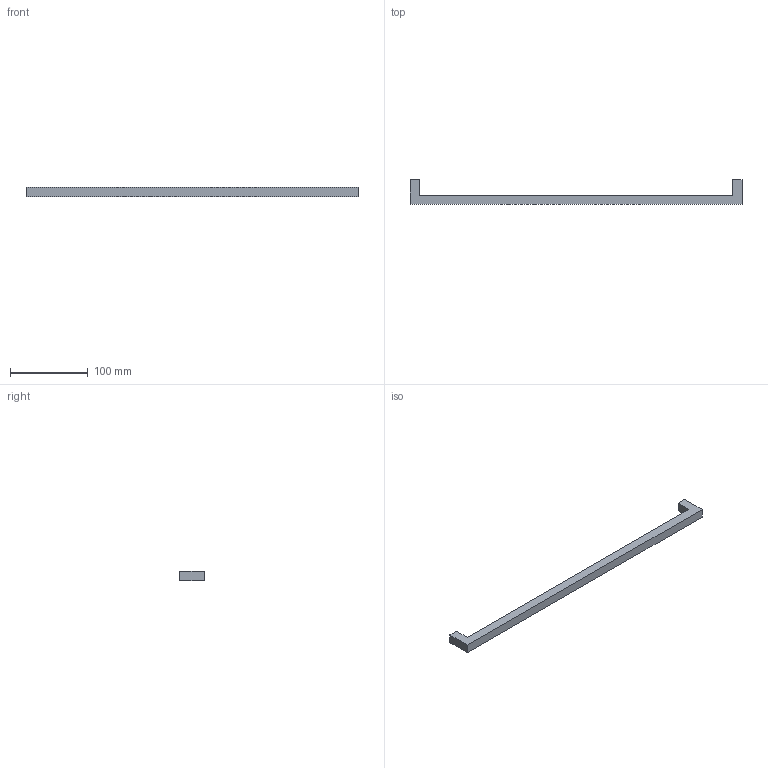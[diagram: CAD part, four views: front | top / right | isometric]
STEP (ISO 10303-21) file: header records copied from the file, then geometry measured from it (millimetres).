
FILE_DESCRIPTION( ( 'STEP AP214' ), '1' );
FILE_NAME( 'C:/Users/kulkarni/Desktop/Apurva/2015/Prodecor_2016/Cadfiles/same as files/Anzio/9207350.stp', ' ', ( ' ' ), ( ' ' ), 'PSStep 15.0.47', 'PARTsolutions', ' ' );
FILE_SCHEMA( ( 'AUTOMOTIVE_DESIGN { 1 0 10303 214 1 1 1 1 }' ) );
Length unit declared in the file: millimetre
Products named in the file (1): _9207350
Bounding box: 428 x 32 x 12 mm (x, y, z)
Volume: 67140.7 mm3; surface area: 23003.3 mm2
Topology: 1 solids, 1 shells, 14 faces, 30 edges, 20 vertices
Faces by surface type: plane 12, cylinder 2
Full cylindrical faces by diameter (mm): 4 x2
Entity records: 496 total; most frequent: CARTESIAN_POINT 63, DIRECTION 62, ORIENTED_EDGE 56, EDGE_CURVE 28, LINE 24, VECTOR 24, VERTEX_POINT 20, AXIS2_PLACEMENT_3D 19
